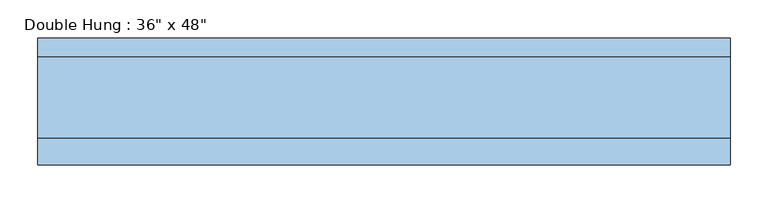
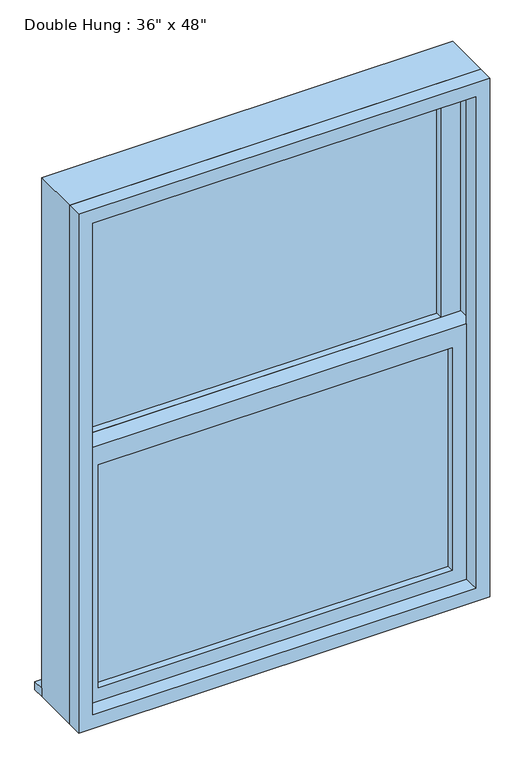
"""IFC4 building model written with IfcOpenShell, lengths in millimetres: window geometry."""

from ifc_helpers import new_model, si_unit, frame, origin, place, context, project, spatial, polyline, outline, extrude, source, transform, mapped, element, save


def window_f4e95f5c(model_context):
    return source(origin(), model_context, "Body", "SweptSolid", [
        extrude(outline(polyline([(-393.7, -7.9375), (393.7, -7.9375), (393.7, -20.6375), (-393.7, -20.6375), (-393.7, -7.9375)])), frame((0.0, 0.0, 977.9), z_axis=(0.0, 0.0, 1.0), x_axis=(1.0, 0.0, 0.0)), (0.0, 0.0, 1.0), 523.875),
        extrude(outline(polyline([(1546.225, -438.15), (933.45, -438.15), (933.45, 438.15), (1546.225, 438.15), (1546.225, -438.15)]), holes=[polyline([(1501.775, -393.7), (1501.775, 393.7), (977.9, 393.7), (977.9, -393.7), (1501.775, -393.7)])]), frame((0.0, -36.5125, 0.0), z_axis=(0.0, 1.0, 0.0), x_axis=(0.0, 0.0, 1.0)), (0.0, 0.0, 1.0), 44.45),
        extrude(outline(polyline([(-457.2, 96.8375), (457.2, 96.8375), (457.2, 71.4375), (-457.2, 71.4375), (-457.2, 96.8375)])), frame((0.0, 0.0, 914.4), z_axis=(0.0, 0.0, 1.0), x_axis=(1.0, 0.0, 0.0)), (0.0, 0.0, 1.0), 19.05),
        extrude(outline(polyline([(393.7, 23.8125), (-393.7, 23.8125), (-393.7, 36.5125), (393.7, 36.5125), (393.7, 23.8125)])), frame((0.0, 0.0, 1546.225), z_axis=(0.0, 0.0, 1.0), x_axis=(1.0, 0.0, 0.0)), (0.0, 0.0, 1.0), 523.875),
        extrude(outline(polyline([(2114.55, -438.15), (1501.775, -438.15), (1501.775, 438.15), (2114.55, 438.15), (2114.55, -438.15)]), holes=[polyline([(2070.1, -393.7), (2070.1, 393.7), (1546.225, 393.7), (1546.225, -393.7), (2070.1, -393.7)])]), frame((0.0, 7.9375, 0.0), z_axis=(0.0, 1.0, 0.0), x_axis=(0.0, 0.0, 1.0)), (0.0, 0.0, 1.0), 44.45),
        extrude(outline(polyline([(2133.6, -457.2), (914.4, -457.2), (914.4, 457.2), (2133.6, 457.2), (2133.6, -457.2)]), holes=[polyline([(2101.85, -425.45), (2101.85, 425.45), (946.15, 425.45), (946.15, -425.45), (2101.85, -425.45)])]), frame((0.0, -71.4375, 0.0), z_axis=(0.0, 1.0, 0.0), x_axis=(0.0, 0.0, 1.0)), (0.0, 0.0, 1.0), 34.925),
        extrude(outline(polyline([(2133.6, 457.2), (2133.6, -457.2), (914.4, -457.2), (914.4, 457.2), (2133.6, 457.2)]), holes=[polyline([(2114.55, 438.15), (933.45, 438.15), (933.45, -438.15), (2114.55, -438.15), (2114.55, 438.15)])]), frame((0.0, -36.5125, 0.0), z_axis=(0.0, 1.0, 0.0), x_axis=(0.0, 0.0, 1.0)), (0.0, 0.0, 1.0), 107.95),
    ])


if __name__ == "__main__":
    model = new_model("IFC4")
    model_context = context("Model", 3, world=origin())
    ifc_project = project(units=[si_unit("LENGTHUNIT", "METRE", prefix="MILLI")], contexts=[model_context])
    site = spatial("IfcSite", under=ifc_project)
    building = spatial("IfcBuilding", under=site)
    placement = place(None, origin())
    window_shape = window_f4e95f5c(model_context)
    element("IfcWindow", 1, ObjectType="Double Hung : 36\" x 48\"", at=placement, inside=building, context=model_context, shape_type="MappedRepresentation", body=[
        mapped(window_shape, transform((0.0, 0.0, 0.0), x_axis=(1.0, 0.0, 0.0), y_axis=(0.0, 1.0, 0.0), z_axis=(0.0, 0.0, 1.0))),
    ])
    save(model, "model.ifc")
